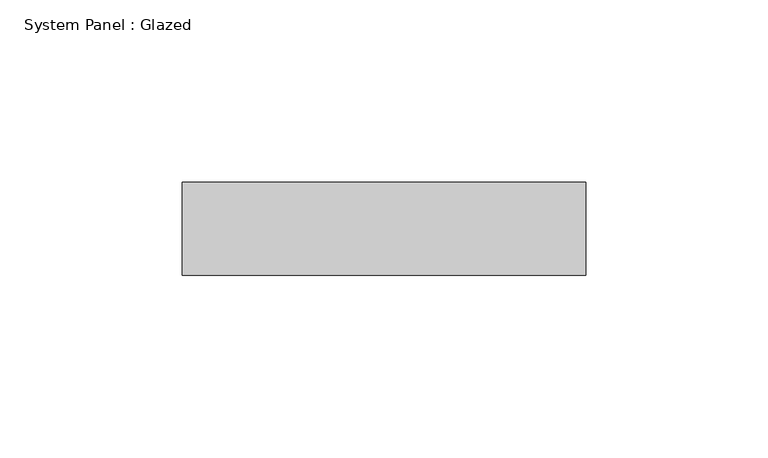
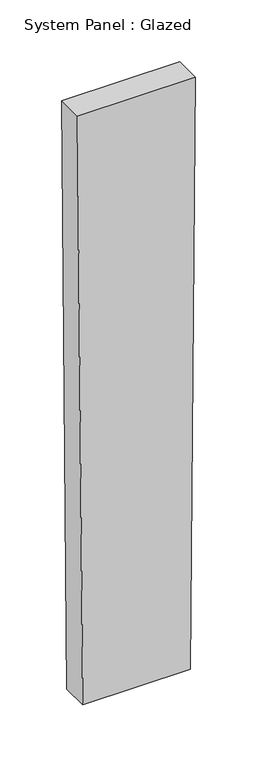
"""IFC4 building model written with IfcOpenShell, lengths in millimetres: plate geometry, System Panel : Glazed."""

from ifc_helpers import new_model, si_unit, frame, origin, place, context, project, spatial, polyline, outline, extrude, source, transform, mapped, element, save


def system_panel_glazed_eab3d7f1(model_context):
    return source(origin(), model_context, "Body", "SweptSolid", [
        extrude(outline(polyline([(0.0, -50.3329524), (0.0, 50.3329524), (584.1785544, 55.2332089), (584.1785544, -55.2332089), (0.0, -50.3329524)])), frame((0.0, 19.05, 0.0), z_axis=(0.0, 1.0, 0.0), x_axis=(0.0, 0.0, 1.0)), (0.0, 0.0, 1.0), 25.4),
    ])


if __name__ == "__main__":
    model = new_model("IFC4")
    model_context = context("Model", 3, world=origin())
    ifc_project = project(units=[si_unit("LENGTHUNIT", "METRE", prefix="MILLI")], contexts=[model_context])
    site = spatial("IfcSite", under=ifc_project)
    building = spatial("IfcBuilding", under=site)
    placement = place(None, origin())
    system_panel_glazed_shape = system_panel_glazed_eab3d7f1(model_context)
    element("IfcPlate", 1, ObjectType="System Panel : Glazed", at=placement, inside=building, context=model_context, shape_type="MappedRepresentation", body=[
        mapped(system_panel_glazed_shape, transform((0.0, 0.0, 0.0), x_axis=(1.0, 0.0, 0.0), y_axis=(0.0, 1.0, 0.0), z_axis=(0.0, 0.0, 1.0))),
    ])
    save(model, "model.ifc")
